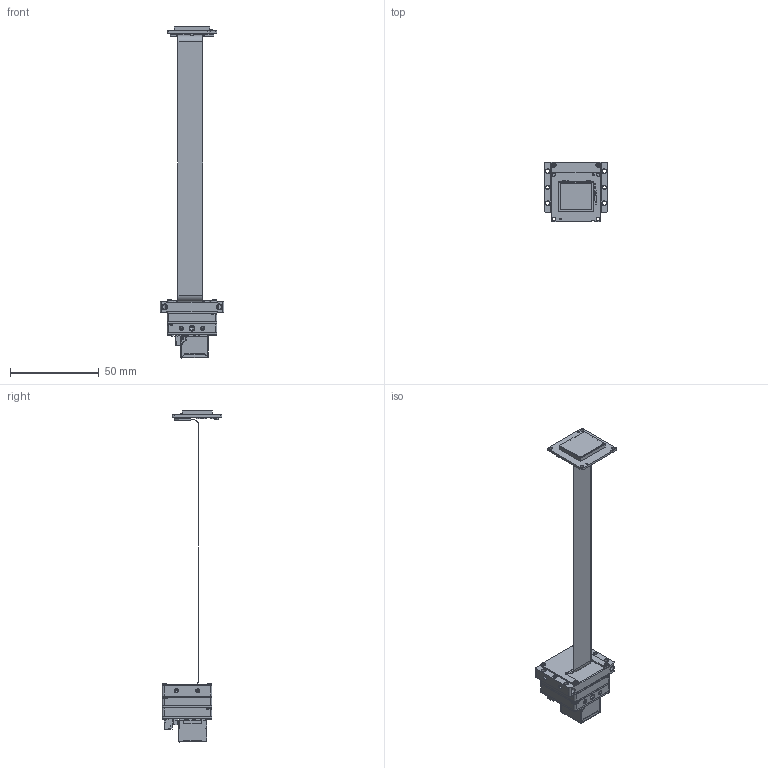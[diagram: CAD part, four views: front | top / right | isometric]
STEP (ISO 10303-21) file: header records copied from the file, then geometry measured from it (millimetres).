
FILE_DESCRIPTION (( 'STEP AP203' ), '1' );
FILE_NAME ('466-818-A_RJ45.STEP', '2025-01-07T20:02:50', ( '' ), ( '' ), 'SwSTEP 2.0', 'SolidWorks 2021', '' );
FILE_SCHEMA (( 'CONFIG_CONTROL_DESIGN' ));
Products named in the file (1): 466-818-A_RJ45
Bounding box: 36 x 33.55 x 187.18 mm (x, y, z)
Volume: 10797.9 mm3; surface area: 28019.1 mm2
Topology: 219 solids, 219 shells, 8804 faces, 22615 edges, 13847 vertices
Faces by surface type: plane 5471, cylinder 2276, bspline 665, cone 247, torus 77, sphere 68
Entity records: 268147 total; most frequent: CARTESIAN_POINT 58592, ORIENTED_EDGE 44078, DIRECTION 42233, EDGE_CURVE 22039, VECTOR 16683, LINE 16683, VERTEX_POINT 13841, AXIS2_PLACEMENT_3D 12775
